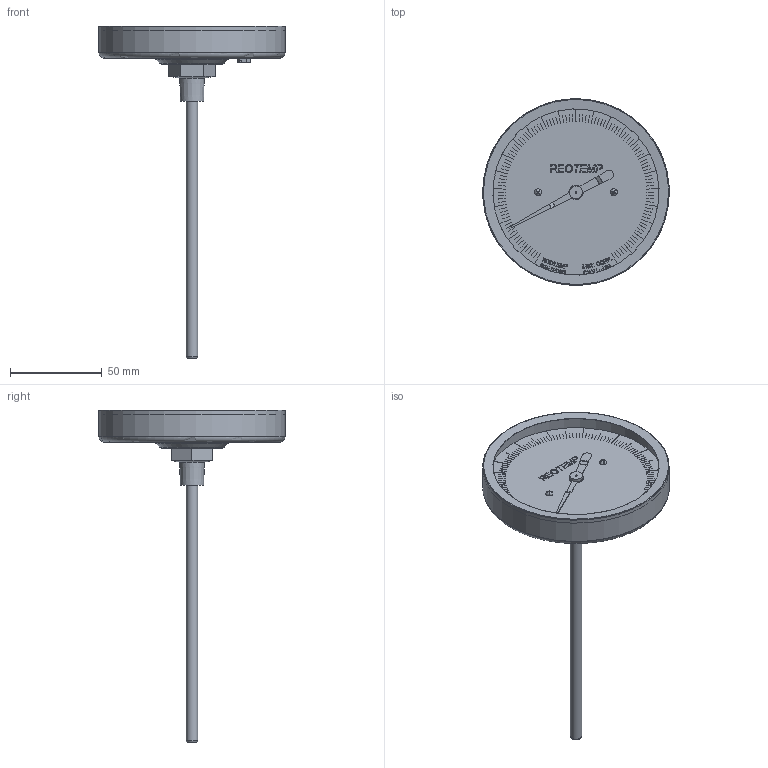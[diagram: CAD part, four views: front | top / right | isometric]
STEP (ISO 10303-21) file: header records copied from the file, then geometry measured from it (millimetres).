
FILE_DESCRIPTION(/* description */ (''),/* implementation_level */ '2;1');
FILE_NAME(/* name */ 'P:\3D Drawings\CC\CC-quarter-NPT\CC-quarter-NPT-STP\CC-quarter-NPT-STP.stp',/* time_stamp */ '2015-11-09T11:20:59-08:00',/* author */ ('charles'),/* organization */ (''),/* preprocessor_version */ 'ST-DEVELOPER v15.2',/* originating_system */ 'Autodesk Inventor 2014',/* authorisation */ '');
FILE_SCHEMA (('AUTOMOTIVE_DESIGN { 1 0 10303 214 3 1 1 }'));
Length unit declared in the file: inch
Products named in the file (1): CC-quarter-NPT
Bounding box: 101.52 x 101.51 x 180.79 mm (x, y, z)
Volume: 59344.1 mm3; surface area: 48156.7 mm2
Topology: 17 solids, 17 shells, 1275 faces, 3278 edges, 2174 vertices
Faces by surface type: plane 1034, bspline 201, cylinder 26, torus 9, cone 5
Full cylindrical faces by diameter (mm): 0.778 x1, 1.067 x1, 2.286 x2, 3.175 x1, 6.071 x1, 6.35 x1, 6.934 x1, 6.985 x1, 90.467 x1, 95.758 x1, 99.415 x1, 101.283 x1, 101.6 x1
Entity records: 41153 total; most frequent: CARTESIAN_POINT 10238, ORIENTED_EDGE 6484, DIRECTION 5019, EDGE_CURVE 3242, LINE 2753, VECTOR 2753, VERTEX_POINT 2166, EDGE_LOOP 1526
